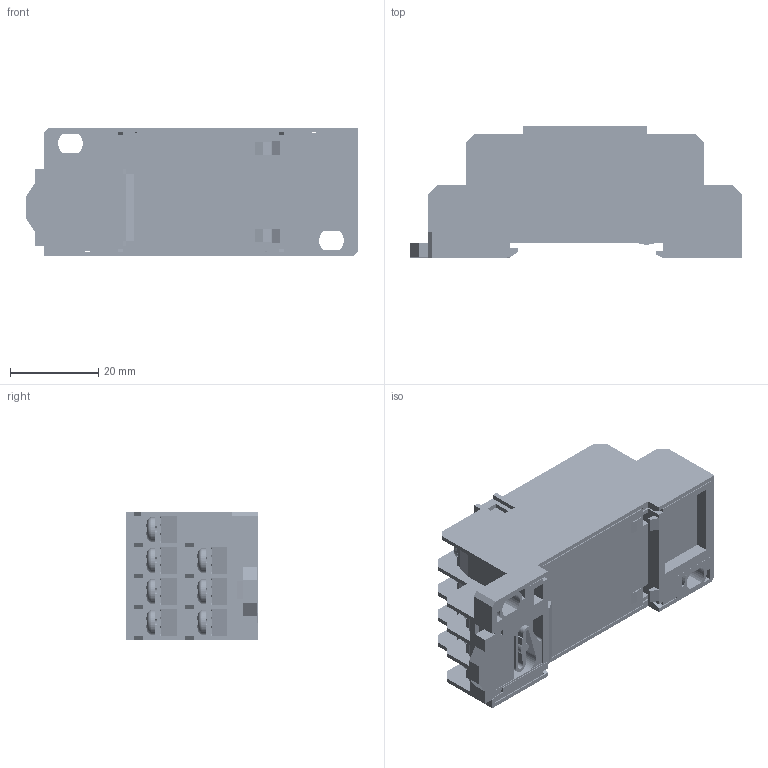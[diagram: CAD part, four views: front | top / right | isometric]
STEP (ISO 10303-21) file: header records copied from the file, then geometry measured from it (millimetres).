
FILE_DESCRIPTION(/* description */ (''),/* implementation_level */ '2;1');
FILE_NAME(/* name */ '18f-4z-c1.stp',/* time_stamp */ '2023-06-20T10:55:48+08:00',/* author */ (''),/* organization */ (''),/* preprocessor_version */ 'ST-DEVELOPER v11',/* originating_system */ 'SIEMENS UGS NX 6.0',/* authorisation */ '');
FILE_SCHEMA (('CONFIG_CONTROL_DESIGN'));
Products named in the file (1): 18f-4z-c1
Bounding box: 75.05 x 30 x 29 mm (x, y, z)
Volume: 25218.3 mm3; surface area: 43951.5 mm2
Topology: 43 solids, 45 shells, 3895 faces, 10881 edges, 6923 vertices
Faces by surface type: plane 2569, cylinder 880, bspline 278, sphere 140, torus 14, cone 14
Full cylindrical faces by diameter (mm): 2 x1, 2.5 x164, 3 x14, 3.5 x14, 3.8 x14, 4 x2, 5.498 x14
Entity records: 160853 total; most frequent: CARTESIAN_POINT 67630, ORIENTED_EDGE 20024, DIRECTION 18346, EDGE_CURVE 10012, LINE 7500, VECTOR 7500, VERTEX_POINT 6544, AXIS2_PLACEMENT_3D 5423
